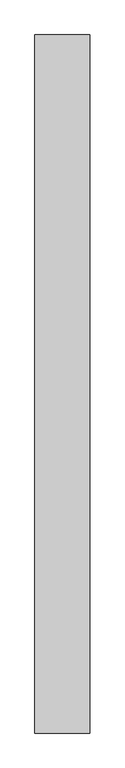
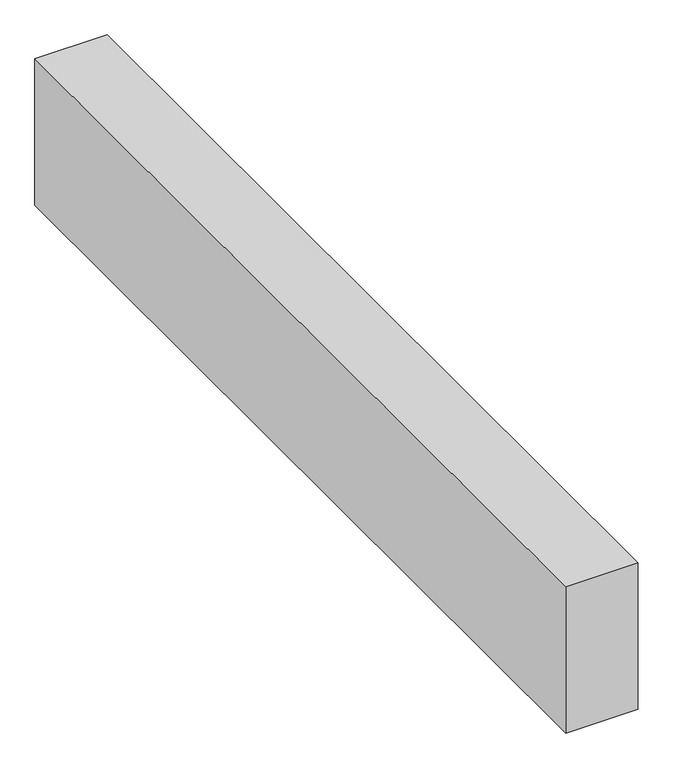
"""IFC4 building model written with IfcOpenShell, lengths in millimetres: proxy geometry."""

import ifcopenshell
import ifcopenshell.guid

model = None  # the IFC model being written
_history = None  # IfcOwnerHistory: only IFC2X3 demands one
_inside = {}  # id of a spatial element -> (the spatial element, [elements in it])
_under = {}  # id of a project, library or spatial element -> (it, [spatial elements below it])
_declared = {}  # id of a project -> (the project, [libraries it declares])
_typed = {}  # id of a type object -> (the type object, [elements of that type])
_made_of = {}  # id of a material, layer set ... -> (it, [elements and type objects made of it])


def new_model(schema):
    """Start an empty IFC model of exactly this schema.

    Asked for "IFC4X3", IfcOpenShell would pick the latest addendum, in which some entities
    have other attributes; the version numbers below select the first issue.
    IFC2X3 requires an IfcOwnerHistory on every rooted entity: one is made here for all.
    """
    global model, _history
    if schema == "IFC4X3":
        model = ifcopenshell.file(schema_version=(4, 3, 0, 0))
    else:
        model = ifcopenshell.file(schema=schema)
    _inside.clear()
    _under.clear()
    _declared.clear()
    _typed.clear()
    _made_of.clear()
    _history = None
    if model.schema == "IFC2X3":
        org = make("IfcOrganization", Name="unknown")
        user = make(
            "IfcPersonAndOrganization",
            ThePerson=make("IfcPerson", FamilyName="unknown"),
            TheOrganization=org,
        )
        app = make(
            "IfcApplication",
            ApplicationDeveloper=org,
            Version="unknown",
            ApplicationFullName="unknown",
            ApplicationIdentifier="unknown",
        )
        _history = make(
            "IfcOwnerHistory",
            OwningUser=user,
            OwningApplication=app,
            ChangeAction="ADDED",
            CreationDate=0,
        )
    return model


def make(cls, **values):
    """One entity of the class cls with the attributes given. An attribute that is None is left unset."""
    return model.create_entity(
        cls, **{name: value for name, value in values.items() if value is not None}
    )


def rooted(cls, **values):
    """An entity with a GlobalId (a new one), such as an element, a storey or a relation."""
    return make(cls, GlobalId=ifcopenshell.guid.new(), OwnerHistory=_history, **values)


def si_unit(unit_type, name, prefix=None):
    """IfcSIUnit, for example si_unit("LENGTHUNIT", "METRE", prefix="MILLI")."""
    return make("IfcSIUnit", UnitType=unit_type, Prefix=prefix, Name=name)


def assignment(units):
    """IfcUnitAssignment: the units of a project."""
    return None if units is None else make("IfcUnitAssignment", Units=units)


def point(xyz):
    """IfcCartesianPoint."""
    return None if xyz is None else make("IfcCartesianPoint", Coordinates=xyz)


def direction(xyz):
    """IfcDirection."""
    return None if xyz is None else make("IfcDirection", DirectionRatios=xyz)


def frame(location, z_axis=None, x_axis=None):
    """IfcAxis2Placement3D, a coordinate frame: its origin and axes. An axis left out is left unset."""
    return make(
        "IfcAxis2Placement3D",
        Location=point(location),
        Axis=direction(z_axis),
        RefDirection=direction(x_axis),
    )


def origin():
    """The frame at (0, 0, 0) with its axes left unset."""
    return frame((0.0, 0.0, 0.0))


def place(relative_to, where):
    """IfcLocalPlacement: puts the frame where relative to a parent placement (None: the world)."""
    return make(
        "IfcLocalPlacement", PlacementRelTo=relative_to, RelativePlacement=where
    )


def context(
    kind, dimensions, precision=None, world=None, true_north=None, identifier=None
):
    """IfcGeometricRepresentationContext, for example the 3D "Model" context."""
    return make(
        "IfcGeometricRepresentationContext",
        ContextIdentifier=identifier,
        ContextType=kind,
        CoordinateSpaceDimension=dimensions,
        Precision=precision,
        WorldCoordinateSystem=world,
        TrueNorth=true_north,
    )


def project(units=None, contexts=None):
    """IfcProject with its units and contexts."""
    return rooted(
        "IfcProject",
        Name="project",
        RepresentationContexts=contexts,
        UnitsInContext=assignment(units),
    )


def spatial(cls, under=None, at=None, **own):
    """A site, building, storey or space (cls), placed at a placement, below another one or the project."""
    s = rooted(cls, ObjectPlacement=at, **own)
    if under is not None:
        _under.setdefault(under.id(), (under, []))[1].append(s)
    return s


def polyline(points):
    """IfcPolyline through the points."""
    return make("IfcPolyline", Points=[point(p) for p in points])


def outline(outer, holes=None, kind="AREA"):
    """IfcArbitraryClosedProfileDef: a profile drawn as a closed curve; with holes, ...WithVoids."""
    if holes is None:
        return make("IfcArbitraryClosedProfileDef", ProfileType=kind, OuterCurve=outer)
    return make(
        "IfcArbitraryProfileDefWithVoids",
        ProfileType=kind,
        OuterCurve=outer,
        InnerCurves=holes,
    )


def extrude(swept, where, along, depth):
    """IfcExtrudedAreaSolid: the profile swept, set in the frame where, extruded along a direction by depth."""
    return make(
        "IfcExtrudedAreaSolid",
        SweptArea=swept,
        Position=where,
        ExtrudedDirection=direction(along),
        Depth=depth,
    )


def shape(context_of_items, identifier, shape_type, items):
    """IfcShapeRepresentation: the items that make up one representation, for example the "Body"."""
    return make(
        "IfcShapeRepresentation",
        ContextOfItems=context_of_items,
        RepresentationIdentifier=identifier,
        RepresentationType=shape_type,
        Items=items,
    )


def source(mapping_origin, context_of_items, identifier, shape_type, items):
    """IfcRepresentationMap: a shape defined once, which mapped items show again and again."""
    return make(
        "IfcRepresentationMap",
        MappingOrigin=mapping_origin,
        MappedRepresentation=shape(context_of_items, identifier, shape_type, items),
    )


def transform(
    local_origin,
    x_axis=None,
    y_axis=None,
    z_axis=None,
    scale=None,
    scale2=None,
    scale3=None,
    uniform=True,
):
    """IfcCartesianTransformationOperator3D, or its non-uniform kind. x_axis, y_axis, z_axis: its Axis1, 2, 3."""
    if uniform:
        return make(
            "IfcCartesianTransformationOperator3D",
            Axis1=direction(x_axis),
            Axis2=direction(y_axis),
            LocalOrigin=point(local_origin),
            Scale=scale,
            Axis3=direction(z_axis),
        )
    return make(
        "IfcCartesianTransformationOperator3DnonUniform",
        Axis1=direction(x_axis),
        Axis2=direction(y_axis),
        LocalOrigin=point(local_origin),
        Scale=scale,
        Axis3=direction(z_axis),
        Scale2=scale2,
        Scale3=scale3,
    )


def mapped(mapping_source, mapping_target):
    """IfcMappedItem: shows the shape of a source again, moved by a transform."""
    return make(
        "IfcMappedItem", MappingSource=mapping_source, MappingTarget=mapping_target
    )


def made_of(thing, what):
    """Note that an element or type object is made of a material, layer set ...; save() writes the relation."""
    if what is not None:
        _made_of.setdefault(what.id(), (what, []))[1].append(thing)
    return thing


def element(
    cls,
    number,
    at=None,
    inside=None,
    cuts=None,
    type_object=None,
    material=None,
    context=None,
    identifier="Body",
    shape_type=None,
    held_by="IfcProductDefinitionShape",
    body=None,
    shapes=None,
    **own,
):
    """One element of the class cls, such as IfcWall. Its Tag is "e" and its number.

    at: its placement. inside: the storey or other place that contains it. cuts: it is an
    opening in that element (IfcRelVoidsElement). A single representation is given by context,
    identifier, shape_type and body (its items); several are given by shapes. held_by: the class
    of the entity that holds the representations. save() writes the other relations.
    """
    e = rooted(cls, Tag="e%d" % number, ObjectPlacement=at, **own)
    if body is not None:
        shapes = [shape(context, identifier, shape_type, body)]
    if shapes is not None:
        e.Representation = make(held_by, Representations=shapes)
    if inside is not None:
        _inside.setdefault(inside.id(), (inside, []))[1].append(e)
    if cuts is not None:
        rooted(
            "IfcRelVoidsElement", RelatingBuildingElement=cuts, RelatedOpeningElement=e
        )
    if type_object is not None:
        _typed.setdefault(type_object.id(), (type_object, []))[1].append(e)
    return made_of(e, material)


def aggregate(whole, parts):
    """IfcRelAggregates: a whole, such as a stair, and the parts it consists of."""
    return rooted("IfcRelAggregates", RelatingObject=whole, RelatedObjects=parts)


def save(model, path):
    """Write the relations noted so far, then the file.

    IfcRelAggregates (storeys below a building ...), IfcRelContainedInSpatialStructure (elements
    in a storey), IfcRelDefinesByType, IfcRelAssociatesMaterial and IfcRelDeclares: one each for
    every whole, place, type object, material and project.
    """
    for whole, parts in _under.values():
        aggregate(whole, parts)
    for where, things in _inside.values():
        rooted(
            "IfcRelContainedInSpatialStructure",
            RelatedElements=things,
            RelatingStructure=where,
        )
    for kind, things in _typed.values():
        rooted("IfcRelDefinesByType", RelatedObjects=things, RelatingType=kind)
    for what, things in _made_of.values():
        rooted("IfcRelAssociatesMaterial", RelatedObjects=things, RelatingMaterial=what)
    for by, libraries in _declared.values():
        rooted("IfcRelDeclares", RelatingContext=by, RelatedDefinitions=libraries)
    model.write(path)


def structural_framing_d044a5ed(model_context):
    return source(origin(), model_context, "Body", "SweptSolid", [
        extrude(outline(polyline([(70.0, -891.2), (-70.0, -891.2), (-70.0, 891.2), (70.0, 891.2), (70.0, -891.2)])), frame((0.0, 0.0, -300.0), z_axis=(0.0, 0.0, 1.0), x_axis=(1.0, 0.0, 0.0)), (0.0, 0.0, 1.0), 300.0),
    ])


if __name__ == "__main__":
    model = new_model("IFC4")
    model_context = context("Model", 3, world=origin())
    ifc_project = project(units=[si_unit("LENGTHUNIT", "METRE", prefix="MILLI")], contexts=[model_context])
    site = spatial("IfcSite", under=ifc_project)
    building = spatial("IfcBuilding", under=site)
    placement = place(None, origin())
    structural_framing_shape = structural_framing_d044a5ed(model_context)
    element("IfcBuildingElementProxy", 1, Name="Structural Framing", at=placement, inside=building, context=model_context, shape_type="MappedRepresentation", body=[
        mapped(structural_framing_shape, transform((0.0, 0.0, 0.0), x_axis=(1.0, 0.0, 0.0), y_axis=(0.0, 1.0, 0.0), z_axis=(0.0, 0.0, 1.0))),
    ])
    save(model, "model.ifc")
